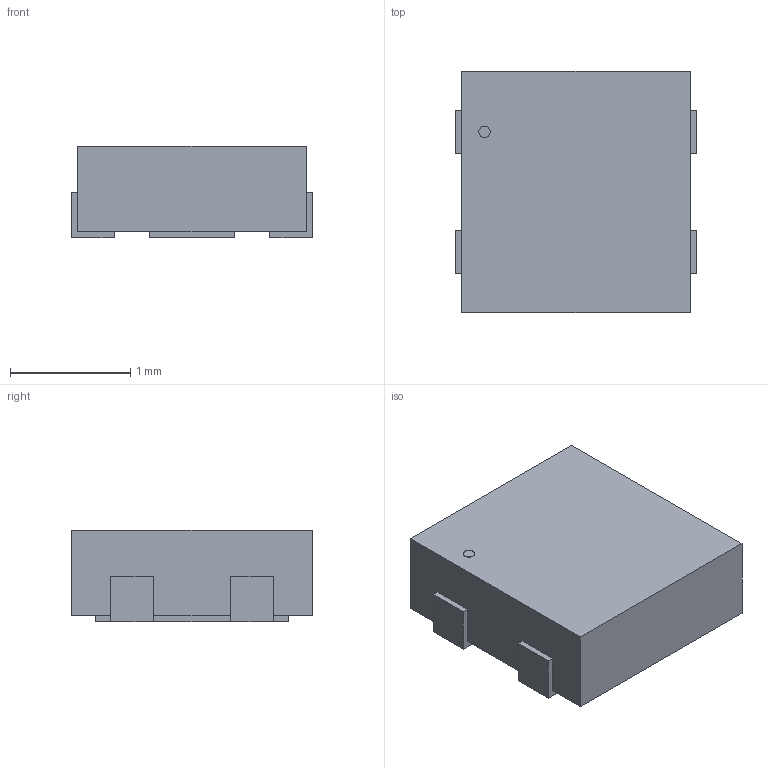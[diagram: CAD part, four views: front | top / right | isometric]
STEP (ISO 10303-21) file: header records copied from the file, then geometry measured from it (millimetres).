
FILE_DESCRIPTION(('STEP AP214'),'1');
FILE_NAME('SHTC3_SEN','2021-04-06T22:26:47',(''),(''),'','','');
FILE_SCHEMA(('AUTOMOTIVE_DESIGN'));
Length unit declared in the file: millimetre
Products named in the file (1): product
Bounding box: 2.01 x 2.01 x 0.77 mm (x, y, z)
Volume: 2.8 mm3; surface area: 18.1 mm2
Topology: 7 solids, 7 shells, 47 faces, 99 edges, 66 vertices
Faces by surface type: plane 46, cylinder 1
Full cylindrical faces by diameter (mm): 0.095 x1
Entity records: 1224 total; most frequent: DIRECTION 198, ORIENTED_EDGE 196, CARTESIAN_POINT 117, EDGE_CURVE 98, LINE 96, VECTOR 96, VERTEX_POINT 66, AXIS2_PLACEMENT_3D 51
